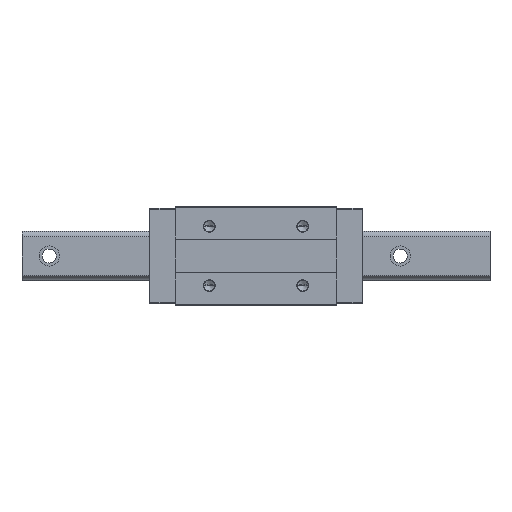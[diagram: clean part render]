
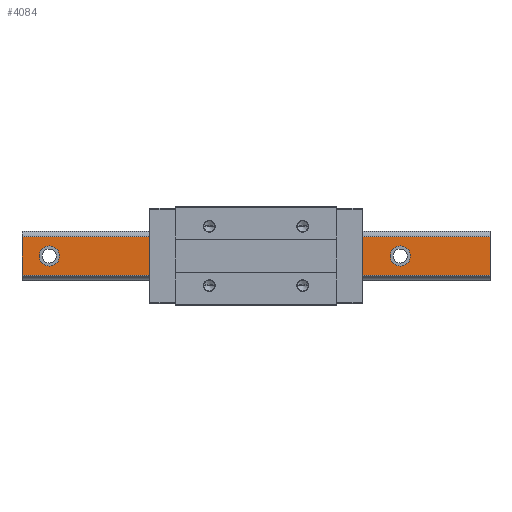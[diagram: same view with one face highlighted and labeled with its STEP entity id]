
A CAD part, top view. The second image highlights one B-rep face of the part: STEP entity #4084.
In plain terms, the highlighted planar face has unit normal (0, 0, 1).
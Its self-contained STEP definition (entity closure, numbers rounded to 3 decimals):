
#2 = VERTEX_POINT ( 'NONE', #3778 ) ;
#10 = CARTESIAN_POINT ( 'NONE',  ( 300., 24.864, 53. ) ) ;
#142 = CARTESIAN_POINT ( 'NONE',  ( 300., -24.864, 53. ) ) ;
#151 = CARTESIAN_POINT ( 'NONE',  ( 48., 0., 53. ) ) ;
#172 = CARTESIAN_POINT ( 'NONE',  ( -300., 24.864, 53. ) ) ;
#181 = CARTESIAN_POINT ( 'NONE',  ( -300., -24.864, 53. ) ) ;
#244 = CARTESIAN_POINT ( 'NONE',  ( 198., 0., 53. ) ) ;
#254 = VECTOR ( 'NONE', #2637, 1000. ) ;
#311 = ORIENTED_EDGE ( 'NONE', *, *, #3336, .F. ) ;
#405 = CARTESIAN_POINT ( 'NONE',  ( -252., 0., 53. ) ) ;
#565 = CARTESIAN_POINT ( 'NONE',  ( -265., 0., 53. ) ) ;
#567 = AXIS2_PLACEMENT_3D ( 'NONE', #3573, #1954, #2331 ) ;
#594 = VERTEX_POINT ( 'NONE', #3993 ) ;
#671 = LINE ( 'NONE', #1026, #4011 ) ;
#697 = AXIS2_PLACEMENT_3D ( 'NONE', #1619, #5203, #3256 ) ;
#708 = LINE ( 'NONE', #181, #2061 ) ;
#718 = VERTEX_POINT ( 'NONE', #3407 ) ;
#757 = DIRECTION ( 'NONE',  ( 1., 0., 0. ) ) ;
#776 = DIRECTION ( 'NONE',  ( 0., 0., 1. ) ) ;
#997 = CARTESIAN_POINT ( 'NONE',  ( 300., -24.864, 53. ) ) ;
#1026 = CARTESIAN_POINT ( 'NONE',  ( 300., 24.864, 53. ) ) ;
#1046 = EDGE_CURVE ( 'NONE', #594, #1227, #4308, .T. ) ;
#1118 = EDGE_LOOP ( 'NONE', ( #1253, #4053 ) ) ;
#1124 = CIRCLE ( 'NONE', #697, 13. ) ;
#1179 = EDGE_LOOP ( 'NONE', ( #4139, #1315 ) ) ;
#1184 = DIRECTION ( 'NONE',  ( 0., 0., 1. ) ) ;
#1227 = VERTEX_POINT ( 'NONE', #151 ) ;
#1242 = DIRECTION ( 'NONE',  ( 0., -1., 0. ) ) ;
#1253 = ORIENTED_EDGE ( 'NONE', *, *, #1615, .F. ) ;
#1313 = FACE_BOUND ( 'NONE', #1179, .T. ) ;
#1315 = ORIENTED_EDGE ( 'NONE', *, *, #3451, .F. ) ;
#1368 = DIRECTION ( 'NONE',  ( 0., -1., 0. ) ) ;
#1394 = DIRECTION ( 'NONE',  ( 1., 0., 0. ) ) ;
#1472 = DIRECTION ( 'NONE',  ( 1., 0., 0. ) ) ;
#1501 = EDGE_CURVE ( 'NONE', #2836, #4255, #3261, .T. ) ;
#1569 = EDGE_CURVE ( 'NONE', #4104, #1884, #2277, .T. ) ;
#1615 = EDGE_CURVE ( 'NONE', #1227, #594, #1720, .T. ) ;
#1619 = CARTESIAN_POINT ( 'NONE',  ( -115., 0., 53. ) ) ;
#1673 = CARTESIAN_POINT ( 'NONE',  ( 185., 0., 53. ) ) ;
#1681 = EDGE_CURVE ( 'NONE', #2566, #3669, #671, .T. ) ;
#1720 = CIRCLE ( 'NONE', #2915, 13. ) ;
#1747 = DIRECTION ( 'NONE',  ( 0., 0., -1. ) ) ;
#1757 = DIRECTION ( 'NONE',  ( 1., 0., 0. ) ) ;
#1774 = PLANE ( 'NONE',  #4901 ) ;
#1822 = ORIENTED_EDGE ( 'NONE', *, *, #4696, .F. ) ;
#1826 = FACE_BOUND ( 'NONE', #1118, .T. ) ;
#1884 = VERTEX_POINT ( 'NONE', #2137 ) ;
#1932 = EDGE_CURVE ( 'NONE', #5196, #718, #3231, .T. ) ;
#1954 = DIRECTION ( 'NONE',  ( 0., 0., 1. ) ) ;
#2022 = AXIS2_PLACEMENT_3D ( 'NONE', #565, #2220, #1394 ) ;
#2061 = VECTOR ( 'NONE', #1242, 1000. ) ;
#2137 = CARTESIAN_POINT ( 'NONE',  ( -300., -24.864, 53. ) ) ;
#2220 = DIRECTION ( 'NONE',  ( 0., 0., 1. ) ) ;
#2277 = LINE ( 'NONE', #2679, #2478 ) ;
#2331 = DIRECTION ( 'NONE',  ( 1., 0., 0. ) ) ;
#2468 = DIRECTION ( 'NONE',  ( 0., 0., 1. ) ) ;
#2478 = VECTOR ( 'NONE', #3866, 1000. ) ;
#2486 = EDGE_CURVE ( 'NONE', #3669, #1884, #708, .T. ) ;
#2566 = VERTEX_POINT ( 'NONE', #10 ) ;
#2636 = DIRECTION ( 'NONE',  ( 0., 0., 1. ) ) ;
#2637 = DIRECTION ( 'NONE',  ( 0., -1., 0. ) ) ;
#2655 = AXIS2_PLACEMENT_3D ( 'NONE', #1673, #4559, #4614 ) ;
#2656 = CARTESIAN_POINT ( 'NONE',  ( 35., 0., 53. ) ) ;
#2679 = CARTESIAN_POINT ( 'NONE',  ( 300., -24.864, 53. ) ) ;
#2816 = CARTESIAN_POINT ( 'NONE',  ( 185., 0., 53. ) ) ;
#2826 = EDGE_CURVE ( 'NONE', #2566, #4104, #3907, .T. ) ;
#2836 = VERTEX_POINT ( 'NONE', #244 ) ;
#2915 = AXIS2_PLACEMENT_3D ( 'NONE', #2656, #2636, #4267 ) ;
#3097 = CIRCLE ( 'NONE', #3940, 13. ) ;
#3231 = CIRCLE ( 'NONE', #2022, 13. ) ;
#3256 = DIRECTION ( 'NONE',  ( 1., 0., 0. ) ) ;
#3261 = CIRCLE ( 'NONE', #2655, 13. ) ;
#3271 = VERTEX_POINT ( 'NONE', #4822 ) ;
#3283 = CARTESIAN_POINT ( 'NONE',  ( 35., 0., 53. ) ) ;
#3336 = EDGE_CURVE ( 'NONE', #3271, #2, #1124, .T. ) ;
#3390 = ORIENTED_EDGE ( 'NONE', *, *, #5090, .F. ) ;
#3407 = CARTESIAN_POINT ( 'NONE',  ( -278., 0., 53. ) ) ;
#3451 = EDGE_CURVE ( 'NONE', #4255, #2836, #4794, .T. ) ;
#3462 = ORIENTED_EDGE ( 'NONE', *, *, #1932, .F. ) ;
#3516 = CARTESIAN_POINT ( 'NONE',  ( 300., -24.864, 53. ) ) ;
#3573 = CARTESIAN_POINT ( 'NONE',  ( -115., 0., 53. ) ) ;
#3669 = VERTEX_POINT ( 'NONE', #172 ) ;
#3774 = EDGE_LOOP ( 'NONE', ( #3462, #3390 ) ) ;
#3778 = CARTESIAN_POINT ( 'NONE',  ( -102., 0., 53. ) ) ;
#3793 = AXIS2_PLACEMENT_3D ( 'NONE', #2816, #1184, #757 ) ;
#3866 = DIRECTION ( 'NONE',  ( -1., 0., 0. ) ) ;
#3895 = EDGE_LOOP ( 'NONE', ( #1822, #311 ) ) ;
#3899 = ORIENTED_EDGE ( 'NONE', *, *, #2486, .T. ) ;
#3907 = LINE ( 'NONE', #3516, #254 ) ;
#3940 = AXIS2_PLACEMENT_3D ( 'NONE', #4755, #776, #1472 ) ;
#3993 = CARTESIAN_POINT ( 'NONE',  ( 22., 0., 53. ) ) ;
#4011 = VECTOR ( 'NONE', #4288, 1000. ) ;
#4053 = ORIENTED_EDGE ( 'NONE', *, *, #1046, .F. ) ;
#4084 = ADVANCED_FACE ( 'NONE', ( #1313, #1826, #5064, #4681, #4657 ), #1774, .F. ) ;
#4104 = VERTEX_POINT ( 'NONE', #997 ) ;
#4138 = AXIS2_PLACEMENT_3D ( 'NONE', #3283, #2468, #1757 ) ;
#4139 = ORIENTED_EDGE ( 'NONE', *, *, #1501, .F. ) ;
#4172 = ORIENTED_EDGE ( 'NONE', *, *, #1569, .F. ) ;
#4255 = VERTEX_POINT ( 'NONE', #4329 ) ;
#4267 = DIRECTION ( 'NONE',  ( 1., 0., 0. ) ) ;
#4288 = DIRECTION ( 'NONE',  ( -1., 0., 0. ) ) ;
#4308 = CIRCLE ( 'NONE', #4138, 13. ) ;
#4329 = CARTESIAN_POINT ( 'NONE',  ( 172., 0., 53. ) ) ;
#4512 = ORIENTED_EDGE ( 'NONE', *, *, #2826, .F. ) ;
#4559 = DIRECTION ( 'NONE',  ( 0., 0., 1. ) ) ;
#4614 = DIRECTION ( 'NONE',  ( 1., 0., 0. ) ) ;
#4657 = FACE_OUTER_BOUND ( 'NONE', #5081, .T. ) ;
#4681 = FACE_BOUND ( 'NONE', #3774, .T. ) ;
#4696 = EDGE_CURVE ( 'NONE', #2, #3271, #5091, .T. ) ;
#4755 = CARTESIAN_POINT ( 'NONE',  ( -265., 0., 53. ) ) ;
#4794 = CIRCLE ( 'NONE', #3793, 13. ) ;
#4822 = CARTESIAN_POINT ( 'NONE',  ( -128., 0., 53. ) ) ;
#4901 = AXIS2_PLACEMENT_3D ( 'NONE', #142, #1747, #1368 ) ;
#5064 = FACE_BOUND ( 'NONE', #3895, .T. ) ;
#5081 = EDGE_LOOP ( 'NONE', ( #3899, #4172, #4512, #5295 ) ) ;
#5090 = EDGE_CURVE ( 'NONE', #718, #5196, #3097, .T. ) ;
#5091 = CIRCLE ( 'NONE', #567, 13. ) ;
#5196 = VERTEX_POINT ( 'NONE', #405 ) ;
#5203 = DIRECTION ( 'NONE',  ( 0., 0., 1. ) ) ;
#5295 = ORIENTED_EDGE ( 'NONE', *, *, #1681, .T. ) ;
